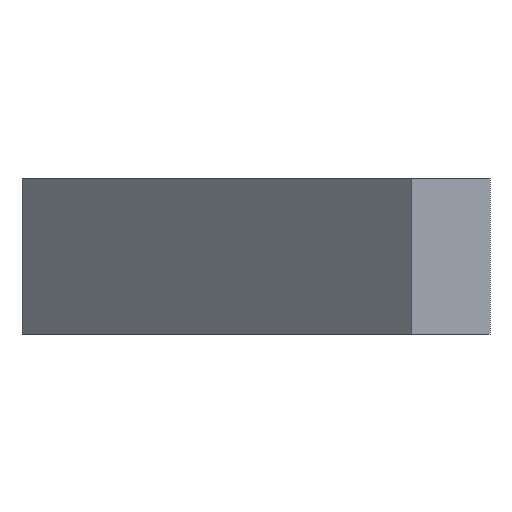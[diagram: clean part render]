
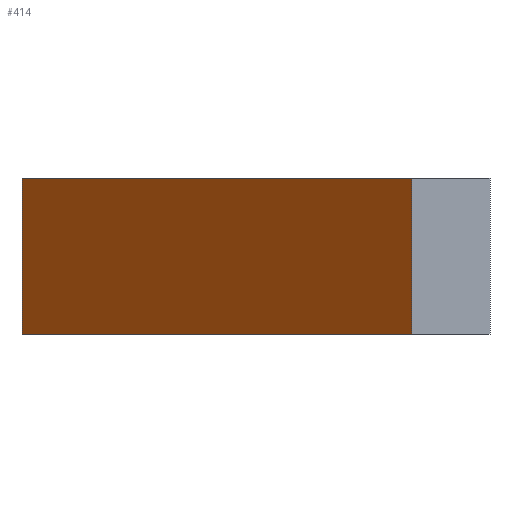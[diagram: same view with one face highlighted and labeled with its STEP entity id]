
A CAD part, front view. The second image highlights one B-rep face of the part: STEP entity #414.
In plain terms, the highlighted planar face has unit normal (-0.707, -0.707, 0).
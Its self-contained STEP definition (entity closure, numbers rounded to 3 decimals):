
#230=ORIENTED_EDGE('',*,*,#289,.T.);
#231=ORIENTED_EDGE('',*,*,#299,.F.);
#232=ORIENTED_EDGE('',*,*,#303,.F.);
#233=ORIENTED_EDGE('',*,*,#291,.F.);
#241=VECTOR('',#325,1.);
#243=VECTOR('',#329,1.);
#251=VECTOR('',#341,1.);
#255=VECTOR('',#349,1.);
#259=LINE('',#362,#241);
#261=LINE('',#367,#243);
#269=LINE('',#383,#251);
#273=LINE('',#389,#255);
#274=VERTEX_POINT('',#355);
#277=VERTEX_POINT('',#360);
#279=VERTEX_POINT('',#366);
#285=VERTEX_POINT('',#381);
#289=EDGE_CURVE('',#274,#277,#259,.T.);
#291=EDGE_CURVE('',#274,#279,#261,.T.);
#299=EDGE_CURVE('',#285,#277,#269,.T.);
#303=EDGE_CURVE('',#279,#285,#273,.T.);
#310=EDGE_LOOP('',(#230,#231,#232,#233));
#318=FACE_BOUND('',#310,.T.);
#325=DIRECTION('',(0.,0.,-10.));
#329=DIRECTION('',(25.,-25.,0.));
#341=DIRECTION('',(-25.,25.,0.));
#349=DIRECTION('',(0.,0.,-10.));
#350=DIRECTION('',(-0.707,-0.707,0.));
#351=DIRECTION('',(-0.707,0.707,0.));
#355=CARTESIAN_POINT('',(0.,-27.5,5.));
#360=CARTESIAN_POINT('',(0.,-27.5,-5.));
#362=CARTESIAN_POINT('',(0.,-27.5,5.));
#366=CARTESIAN_POINT('',(25.,-52.5,5.));
#367=CARTESIAN_POINT('',(0.,-27.5,5.));
#381=CARTESIAN_POINT('',(25.,-52.5,-5.));
#383=CARTESIAN_POINT('',(25.,-52.5,-5.));
#389=CARTESIAN_POINT('',(25.,-52.5,5.));
#390=CARTESIAN_POINT('',(25.,-52.5,0.));
#398=AXIS2_PLACEMENT_3D('',#390,#350,#351);
#406=PLANE('',#398);
#414=ADVANCED_FACE('',(#318),#406,.T.);
